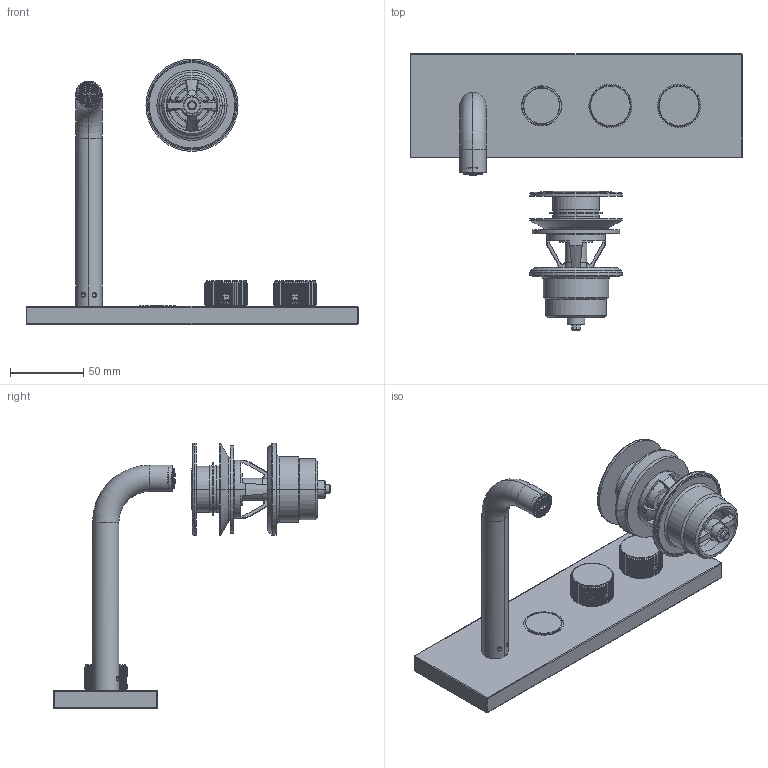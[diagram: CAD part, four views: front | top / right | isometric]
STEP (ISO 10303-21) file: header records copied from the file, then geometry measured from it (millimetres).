
FILE_DESCRIPTION((''),'2;1');
FILE_NAME('3DF_F5951X5','2022-09-19T11:05:10',('ivanv'),(''),'CREO PARAMETRIC BY PTC INC, 2021184','CREO PARAMETRIC BY PTC INC, 2021184','');
FILE_SCHEMA(('CONFIG_CONTROL_DESIGN'));
Products named in the file (1): 3DF_F5951X5
Bounding box: 227 x 189 x 181.55 mm (x, y, z)
Volume: 239558.3 mm3; surface area: 124103.8 mm2
Topology: 4 solids, 6 shells, 4630 faces, 13416 edges, 8879 vertices
Faces by surface type: plane 2580, cylinder 1102, torus 481, bspline 189, cone 134, extrusion 114, sphere 30
Entity records: 198808 total; most frequent: CARTESIAN_POINT 84456, ORIENTED_EDGE 26800, DIRECTION 19764, EDGE_CURVE 13400, VERTEX_POINT 8879, AXIS2_PLACEMENT_3D 7159, VECTOR 5446, B_SPLINE_CURVE_WITH_KNOTS 5350
